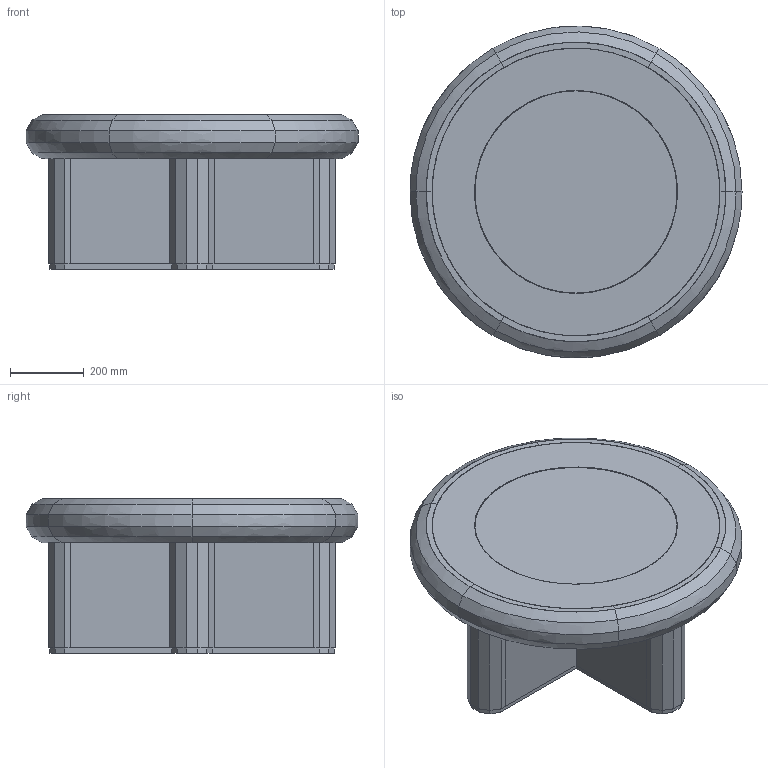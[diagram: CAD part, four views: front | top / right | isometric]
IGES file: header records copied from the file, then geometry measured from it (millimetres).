
Global section: file name: G:\Echant et Market\20-MOBILIER\MODELISATION 3D\mod; native system: Rhinoceros ( Sep 13 2021 ); preprocessor: Trout Lake IGES 012 Sep 13 2021; date: 211014.131803; units: millimetre
Bounding box: 900 x 899.65 x 420 mm (x, y, z)
Surface area: 6894303.8 mm2 (no closed solid volume)
Topology: 0 solids, 0 shells, 579 faces, 3424 edges, 3424 vertices
Faces by surface type: bspline 579
